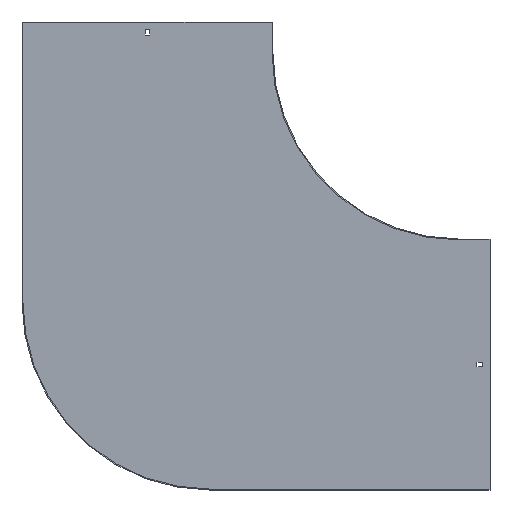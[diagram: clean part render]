
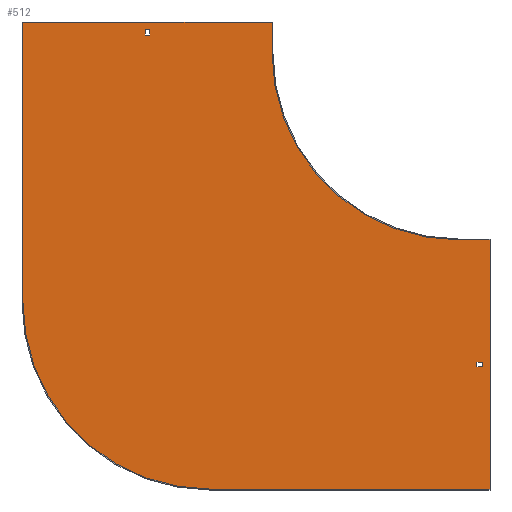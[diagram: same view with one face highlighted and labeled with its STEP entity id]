
A CAD part, front view. The second image highlights one B-rep face of the part: STEP entity #512.
In plain terms, the highlighted planar face has unit normal (0, -1, 0).
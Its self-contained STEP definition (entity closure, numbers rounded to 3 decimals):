
#4 = DIRECTION ( 'NONE',  ( 0., 0., 1. ) ) ;
#13 = VERTEX_POINT ( 'NONE', #733 ) ;
#15 = CARTESIAN_POINT ( 'NONE',  ( -503.25, -1.5, 29. ) ) ;
#24 = CARTESIAN_POINT ( 'NONE',  ( 0., -1.5, -300. ) ) ;
#37 = PLANE ( 'NONE',  #216 ) ;
#43 = CARTESIAN_POINT ( 'NONE',  ( -700., -1.5, -400. ) ) ;
#45 = CARTESIAN_POINT ( 'NONE',  ( -503.25, -1.5, 0. ) ) ;
#48 = EDGE_CURVE ( 'NONE', #430, #389, #133, .T. ) ;
#49 = DIRECTION ( 'NONE',  ( 1., 0., 0. ) ) ;
#56 = EDGE_CURVE ( 'NONE', #279, #244, #600, .T. ) ;
#68 = VERTEX_POINT ( 'NONE', #606 ) ;
#72 = CARTESIAN_POINT ( 'NONE',  ( -400., -1.5, -400. ) ) ;
#76 = CARTESIAN_POINT ( 'NONE',  ( 38., -1.5, 0. ) ) ;
#79 = ORIENTED_EDGE ( 'NONE', *, *, #476, .F. ) ;
#87 = DIRECTION ( 'NONE',  ( 0., 0., -1. ) ) ;
#89 = LINE ( 'NONE', #298, #578 ) ;
#92 = ORIENTED_EDGE ( 'NONE', *, *, #666, .F. ) ;
#99 = VECTOR ( 'NONE', #521, 1000. ) ;
#108 = LINE ( 'NONE', #466, #587 ) ;
#111 = CARTESIAN_POINT ( 'NONE',  ( -700., -1.5, 50. ) ) ;
#117 = EDGE_CURVE ( 'NONE', #389, #816, #360, .T. ) ;
#121 = DIRECTION ( 'NONE',  ( 0., 0., -1. ) ) ;
#125 = LINE ( 'NONE', #194, #842 ) ;
#133 = CIRCLE ( 'NONE', #712, 300. ) ;
#150 = VECTOR ( 'NONE', #564, 1000. ) ;
#159 = EDGE_CURVE ( 'NONE', #678, #860, #286, .T. ) ;
#167 = VECTOR ( 'NONE', #567, 1000. ) ;
#173 = ORIENTED_EDGE ( 'NONE', *, *, #718, .F. ) ;
#175 = LINE ( 'NONE', #372, #326 ) ;
#194 = CARTESIAN_POINT ( 'NONE',  ( 0., -1.5, -503.25 ) ) ;
#198 = CARTESIAN_POINT ( 'NONE',  ( 29., -1.5, 0. ) ) ;
#210 = VERTEX_POINT ( 'NONE', #358 ) ;
#216 = AXIS2_PLACEMENT_3D ( 'NONE', #449, #708, #775 ) ;
#218 = ORIENTED_EDGE ( 'NONE', *, *, #551, .T. ) ;
#243 = CARTESIAN_POINT ( 'NONE',  ( -400., -1.5, -700. ) ) ;
#244 = VERTEX_POINT ( 'NONE', #353 ) ;
#260 = VERTEX_POINT ( 'NONE', #15 ) ;
#264 = CARTESIAN_POINT ( 'NONE',  ( -700., -1.5, -400. ) ) ;
#269 = LINE ( 'NONE', #198, #812 ) ;
#270 = EDGE_CURVE ( 'NONE', #13, #485, #617, .T. ) ;
#275 = ORIENTED_EDGE ( 'NONE', *, *, #56, .F. ) ;
#279 = VERTEX_POINT ( 'NONE', #818 ) ;
#285 = CARTESIAN_POINT ( 'NONE',  ( -496.75, -1.5, 38. ) ) ;
#286 = LINE ( 'NONE', #759, #167 ) ;
#288 = AXIS2_PLACEMENT_3D ( 'NONE', #688, #575, #87 ) ;
#298 = CARTESIAN_POINT ( 'NONE',  ( 0., -1.5, 29. ) ) ;
#299 = CARTESIAN_POINT ( 'NONE',  ( -300., -1.5, 50. ) ) ;
#306 = LINE ( 'NONE', #780, #418 ) ;
#317 = ORIENTED_EDGE ( 'NONE', *, *, #694, .T. ) ;
#326 = VECTOR ( 'NONE', #849, 1000. ) ;
#328 = DIRECTION ( 'NONE',  ( 1., 0., 0. ) ) ;
#329 = ORIENTED_EDGE ( 'NONE', *, *, #423, .F. ) ;
#349 = EDGE_CURVE ( 'NONE', #424, #430, #175, .T. ) ;
#353 = CARTESIAN_POINT ( 'NONE',  ( 38., -1.5, -496.75 ) ) ;
#358 = CARTESIAN_POINT ( 'NONE',  ( 29., -1.5, -503.25 ) ) ;
#360 = LINE ( 'NONE', #264, #837 ) ;
#372 = CARTESIAN_POINT ( 'NONE',  ( 50., -1.5, -700. ) ) ;
#373 = CARTESIAN_POINT ( 'NONE',  ( 50., -1.5, -700. ) ) ;
#389 = VERTEX_POINT ( 'NONE', #43 ) ;
#393 = VERTEX_POINT ( 'NONE', #783 ) ;
#395 = CARTESIAN_POINT ( 'NONE',  ( -496.75, -1.5, 0. ) ) ;
#401 = FACE_BOUND ( 'NONE', #632, .T. ) ;
#412 = CARTESIAN_POINT ( 'NONE',  ( 50., -1.5, -298.5 ) ) ;
#418 = VECTOR ( 'NONE', #49, 1000. ) ;
#423 = EDGE_CURVE ( 'NONE', #485, #734, #498, .T. ) ;
#424 = VERTEX_POINT ( 'NONE', #373 ) ;
#430 = VERTEX_POINT ( 'NONE', #243 ) ;
#440 = LINE ( 'NONE', #839, #99 ) ;
#442 = FACE_BOUND ( 'NONE', #752, .T. ) ;
#443 = ORIENTED_EDGE ( 'NONE', *, *, #117, .F. ) ;
#449 = CARTESIAN_POINT ( 'NONE',  ( 0., -1.5, 0. ) ) ;
#455 = DIRECTION ( 'NONE',  ( 0., 0., 1. ) ) ;
#462 = DIRECTION ( 'NONE',  ( 1., 0., 0. ) ) ;
#463 = VERTEX_POINT ( 'NONE', #702 ) ;
#464 = VECTOR ( 'NONE', #121, 1000. ) ;
#466 = CARTESIAN_POINT ( 'NONE',  ( -701.5, -1.5, 50. ) ) ;
#473 = ORIENTED_EDGE ( 'NONE', *, *, #48, .F. ) ;
#476 = EDGE_CURVE ( 'NONE', #734, #68, #306, .T. ) ;
#478 = ORIENTED_EDGE ( 'NONE', *, *, #808, .T. ) ;
#485 = VERTEX_POINT ( 'NONE', #573 ) ;
#495 = ORIENTED_EDGE ( 'NONE', *, *, #798, .F. ) ;
#498 = CIRCLE ( 'NONE', #288, 300. ) ;
#501 = LINE ( 'NONE', #412, #150 ) ;
#512 = ADVANCED_FACE ( 'NONE', ( #401, #662, #442 ), #37, .T. ) ;
#521 = DIRECTION ( 'NONE',  ( -1., 0., 0. ) ) ;
#546 = VECTOR ( 'NONE', #4, 1000. ) ;
#551 = EDGE_CURVE ( 'NONE', #393, #260, #89, .T. ) ;
#554 = ORIENTED_EDGE ( 'NONE', *, *, #654, .F. ) ;
#559 = DIRECTION ( 'NONE',  ( 0., 1., 0. ) ) ;
#564 = DIRECTION ( 'NONE',  ( 0., 0., -1. ) ) ;
#567 = DIRECTION ( 'NONE',  ( 1., 0., 0. ) ) ;
#570 = DIRECTION ( 'NONE',  ( -1., 0., 0. ) ) ;
#573 = CARTESIAN_POINT ( 'NONE',  ( -300., -1.5, 0. ) ) ;
#575 = DIRECTION ( 'NONE',  ( 0., -1., 0. ) ) ;
#578 = VECTOR ( 'NONE', #570, 1000. ) ;
#587 = VECTOR ( 'NONE', #328, 1000. ) ;
#589 = VECTOR ( 'NONE', #851, 1000. ) ;
#592 = CARTESIAN_POINT ( 'NONE',  ( -503.25, -1.5, 38. ) ) ;
#600 = LINE ( 'NONE', #76, #546 ) ;
#606 = CARTESIAN_POINT ( 'NONE',  ( 50., -1.5, -300. ) ) ;
#617 = LINE ( 'NONE', #299, #640 ) ;
#632 = EDGE_LOOP ( 'NONE', ( #554, #275, #852, #495 ) ) ;
#640 = VECTOR ( 'NONE', #692, 1000. ) ;
#654 = EDGE_CURVE ( 'NONE', #244, #463, #440, .T. ) ;
#655 = ORIENTED_EDGE ( 'NONE', *, *, #159, .T. ) ;
#662 = FACE_OUTER_BOUND ( 'NONE', #781, .T. ) ;
#666 = EDGE_CURVE ( 'NONE', #816, #13, #108, .T. ) ;
#667 = DIRECTION ( 'NONE',  ( 0., 0., -1. ) ) ;
#678 = VERTEX_POINT ( 'NONE', #592 ) ;
#687 = EDGE_CURVE ( 'NONE', #210, #279, #125, .T. ) ;
#688 = CARTESIAN_POINT ( 'NONE',  ( 0., -1.5, 0. ) ) ;
#692 = DIRECTION ( 'NONE',  ( 0., 0., -1. ) ) ;
#694 = EDGE_CURVE ( 'NONE', #860, #393, #723, .T. ) ;
#702 = CARTESIAN_POINT ( 'NONE',  ( 29., -1.5, -496.75 ) ) ;
#707 = DIRECTION ( 'NONE',  ( 0., 0., -1. ) ) ;
#708 = DIRECTION ( 'NONE',  ( 0., -1., 0. ) ) ;
#712 = AXIS2_PLACEMENT_3D ( 'NONE', #72, #559, #667 ) ;
#717 = LINE ( 'NONE', #45, #589 ) ;
#718 = EDGE_CURVE ( 'NONE', #68, #424, #501, .T. ) ;
#723 = LINE ( 'NONE', #395, #464 ) ;
#733 = CARTESIAN_POINT ( 'NONE',  ( -300., -1.5, 50. ) ) ;
#734 = VERTEX_POINT ( 'NONE', #24 ) ;
#752 = EDGE_LOOP ( 'NONE', ( #655, #317, #218, #478 ) ) ;
#759 = CARTESIAN_POINT ( 'NONE',  ( 0., -1.5, 38. ) ) ;
#775 = DIRECTION ( 'NONE',  ( 0., 0., -1. ) ) ;
#780 = CARTESIAN_POINT ( 'NONE',  ( 0., -1.5, -300. ) ) ;
#781 = EDGE_LOOP ( 'NONE', ( #92, #443, #473, #822, #173, #79, #329, #848 ) ) ;
#783 = CARTESIAN_POINT ( 'NONE',  ( -496.75, -1.5, 29. ) ) ;
#798 = EDGE_CURVE ( 'NONE', #463, #210, #269, .T. ) ;
#808 = EDGE_CURVE ( 'NONE', #260, #678, #717, .T. ) ;
#812 = VECTOR ( 'NONE', #707, 1000. ) ;
#816 = VERTEX_POINT ( 'NONE', #111 ) ;
#818 = CARTESIAN_POINT ( 'NONE',  ( 38., -1.5, -503.25 ) ) ;
#822 = ORIENTED_EDGE ( 'NONE', *, *, #349, .F. ) ;
#837 = VECTOR ( 'NONE', #455, 1000. ) ;
#839 = CARTESIAN_POINT ( 'NONE',  ( 0., -1.5, -496.75 ) ) ;
#842 = VECTOR ( 'NONE', #462, 1000. ) ;
#848 = ORIENTED_EDGE ( 'NONE', *, *, #270, .F. ) ;
#849 = DIRECTION ( 'NONE',  ( -1., 0., 0. ) ) ;
#851 = DIRECTION ( 'NONE',  ( 0., 0., 1. ) ) ;
#852 = ORIENTED_EDGE ( 'NONE', *, *, #687, .F. ) ;
#860 = VERTEX_POINT ( 'NONE', #285 ) ;
